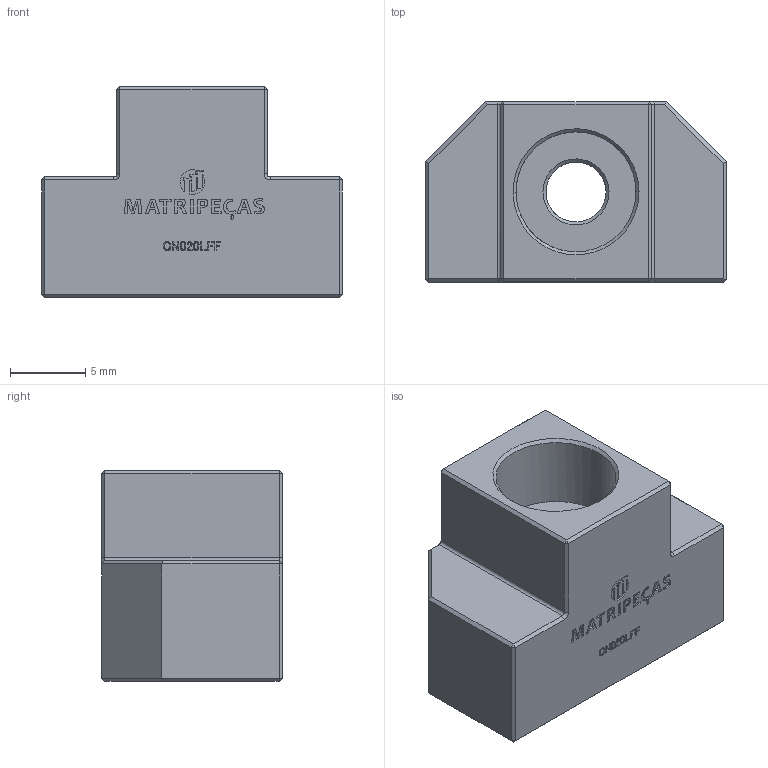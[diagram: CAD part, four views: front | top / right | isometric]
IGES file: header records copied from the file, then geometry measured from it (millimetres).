
Start section: C
Global section: file name: CN020LFF02.igs; native system: By Siemens PLM Incorporated; preprocessor: XPlus GENERIC/IGES 18.0.17; author: Author; organization: Title; date: 20240725.134835; units: millimetre
Bounding box: 20 x 12 x 14 mm (x, y, z)
Volume: 2141.5 mm3; surface area: 1379.3 mm2
Topology: 1 solids, 1 shells, 287 faces, 734 edges, 476 vertices
Faces by surface type: bspline 287
